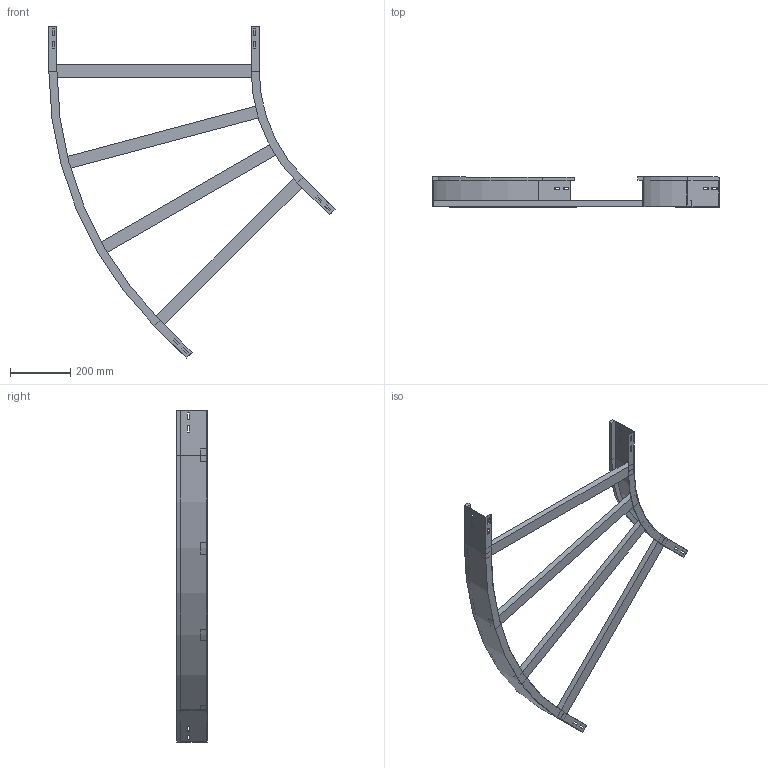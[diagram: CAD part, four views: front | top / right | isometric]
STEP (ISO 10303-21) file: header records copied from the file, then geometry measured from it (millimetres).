
FILE_DESCRIPTION (( 'STEP AP214' ), '1' );
FILE_NAME ('11B5D700.step', '2025-02-21T15:12:00', ( '' ), ( '' ), 'SwSTEP 2.0', 'SolidWorks 2023', '' );
FILE_SCHEMA (( 'AUTOMOTIVE_DESIGN' ));
Length unit declared in the file: millimetre
Products named in the file (4): A2_LONGH.INTERNO 45°_H100_R500; TRAVERSINO_700; 11B5D700; A2_LONGH.ESTERNO 45°_H100_R500+700
Assembly tree (6 placements, depth 2):
  11B5D700
    A2_LONGH.INTERNO 45°_H100_R500
    A2_LONGH.ESTERNO 45°_H100_R500+700
    TRAVERSINO_700  x4
Bounding box: 952.51 x 100 x 1104.59 mm (x, y, z)
Volume: 3105460.2 mm3; surface area: 895500.6 mm2
Topology: 6 solids, 6 shells, 140 faces, 352 edges, 224 vertices
Faces by surface type: plane 132, cylinder 8
Entity records: 3829 total; most frequent: CARTESIAN_POINT 647, ORIENTED_EDGE 632, DIRECTION 594, EDGE_CURVE 316, VECTOR 300, LINE 300, VERTEX_POINT 200, EDGE_LOOP 154
